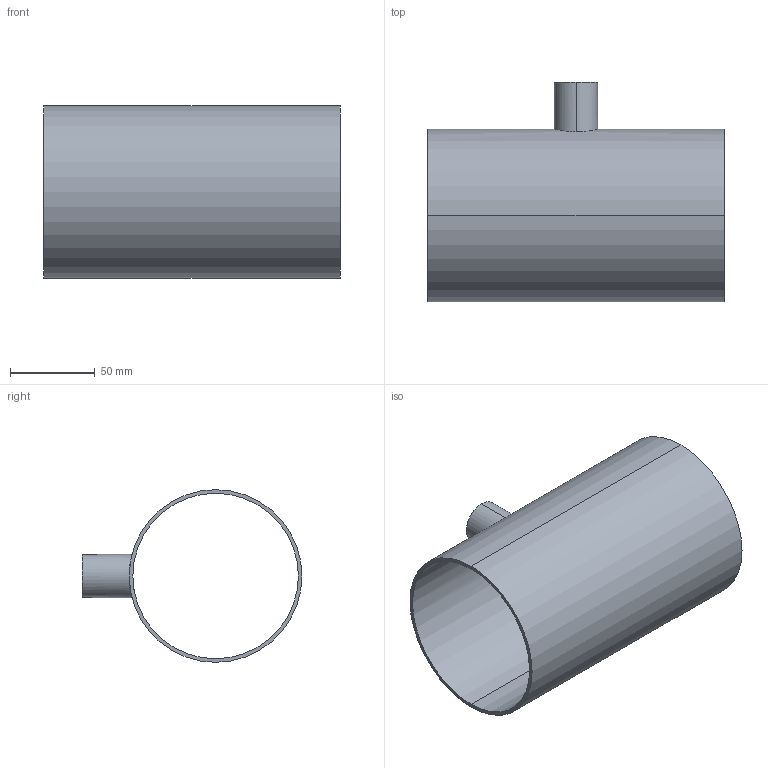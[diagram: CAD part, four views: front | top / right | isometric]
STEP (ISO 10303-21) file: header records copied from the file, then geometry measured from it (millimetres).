
FILE_DESCRIPTION (( 'STEP AP214' ), '1' );
FILE_NAME ('E7RWWW4.0X1.0.STEP', '2025-10-27T14:19:10', ( '' ), ( '' ), 'SwSTEP 2.0', 'SolidWorks 2023', '' );
FILE_SCHEMA (( 'AUTOMOTIVE_DESIGN' ));
Length unit declared in the file: inch
Products named in the file (1): E7RWWW4.0X1.0
Bounding box: 174.62 x 129.36 x 101.6 mm (x, y, z)
Volume: 117761.4 mm3; surface area: 114103.9 mm2
Topology: 1 solids, 1 shells, 11 faces, 24 edges, 16 vertices
Faces by surface type: cylinder 8, plane 3
Entity records: 528 total; most frequent: CARTESIAN_POINT 243, DIRECTION 56, ORIENTED_EDGE 48, AXIS2_PLACEMENT_3D 24, EDGE_CURVE 24, EDGE_LOOP 16, VERTEX_POINT 16, CIRCLE 12
